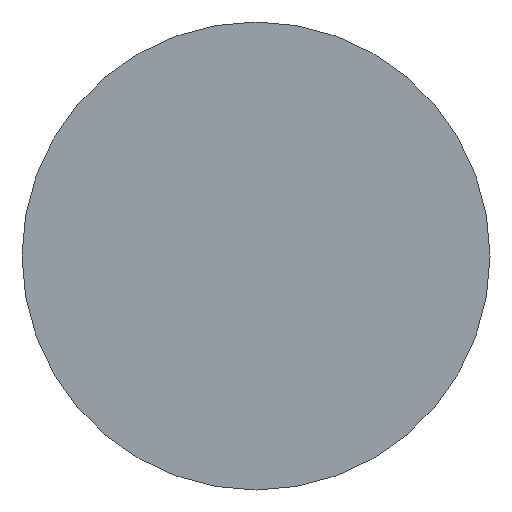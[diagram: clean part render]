
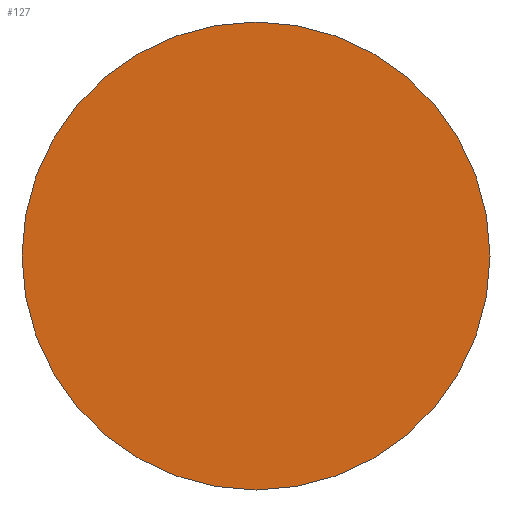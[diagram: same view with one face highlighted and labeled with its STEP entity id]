
A CAD part, left-side view. The second image highlights one B-rep face of the part: STEP entity #127.
In plain terms, the highlighted planar face has unit normal (-1, 0, 0).
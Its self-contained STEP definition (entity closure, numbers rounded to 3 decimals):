
#49 = CYLINDRICAL_SURFACE('',#50,4.5);
#50 = AXIS2_PLACEMENT_3D('',#51,#52,#53);
#51 = CARTESIAN_POINT('',(34.,21.,17.));
#52 = DIRECTION('',(1.,0.,0.));
#53 = DIRECTION('',(-0.,0.,1.));
#74 = VERTEX_POINT('',#75);
#75 = CARTESIAN_POINT('',(34.,21.,21.5));
#96 = EDGE_CURVE('',#74,#74,#97,.T.);
#97 = SURFACE_CURVE('',#98,(#103,#110),.PCURVE_S1.);
#98 = CIRCLE('',#99,4.5);
#99 = AXIS2_PLACEMENT_3D('',#100,#101,#102);
#100 = CARTESIAN_POINT('',(34.,21.,17.));
#101 = DIRECTION('',(1.,0.,0.));
#102 = DIRECTION('',(-0.,0.,1.));
#103 = PCURVE('',#49,#104);
#104 = DEFINITIONAL_REPRESENTATION('',(#105),#109);
#105 = LINE('',#106,#107);
#106 = CARTESIAN_POINT('',(0.,0.));
#107 = VECTOR('',#108,1.);
#108 = DIRECTION('',(1.,0.));
#109 = ( GEOMETRIC_REPRESENTATION_CONTEXT(2) 
PARAMETRIC_REPRESENTATION_CONTEXT() REPRESENTATION_CONTEXT('2D SPACE',''
  ) );
#110 = PCURVE('',#111,#116);
#111 = PLANE('',#112);
#112 = AXIS2_PLACEMENT_3D('',#113,#114,#115);
#113 = CARTESIAN_POINT('',(34.,21.,17.));
#114 = DIRECTION('',(1.,0.,0.));
#115 = DIRECTION('',(-0.,0.,1.));
#116 = DEFINITIONAL_REPRESENTATION('',(#117),#121);
#117 = CIRCLE('',#118,4.5);
#118 = AXIS2_PLACEMENT_2D('',#119,#120);
#119 = CARTESIAN_POINT('',(0.,0.));
#120 = DIRECTION('',(1.,0.));
#121 = ( GEOMETRIC_REPRESENTATION_CONTEXT(2) 
PARAMETRIC_REPRESENTATION_CONTEXT() REPRESENTATION_CONTEXT('2D SPACE',''
  ) );
#127 = ADVANCED_FACE('',(#128),#111,.F.);
#128 = FACE_BOUND('',#129,.T.);
#129 = EDGE_LOOP('',(#130));
#130 = ORIENTED_EDGE('',*,*,#96,.F.);
